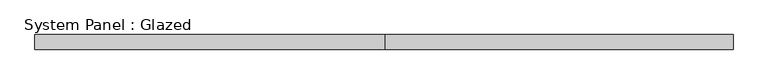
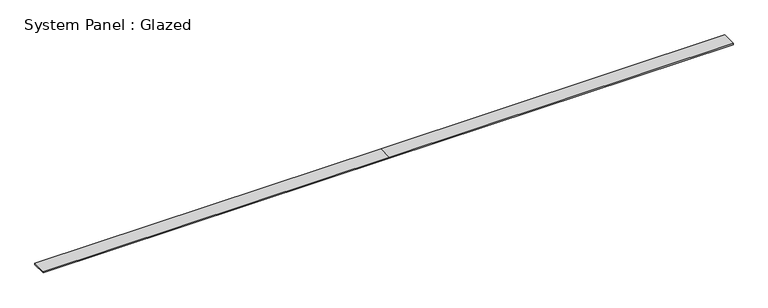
"""IFC4 building model written with IfcOpenShell, lengths in millimetres: plate geometry, System Panel : Glazed."""

from ifc_helpers import new_model, si_unit, frame, origin, place, context, project, spatial, polyline, outline, extrude, source, transform, mapped, element, save


def system_panel_glazed_8247c2e5(model_context):
    return source(origin(), model_context, "Body", "SweptSolid", [
        extrude(outline(polyline([(0.0, -597.9675506), (0.0, 2.0324494), (0.0, 597.9675506), (2.5, 597.9675506), (2.5, 2.0324494), (2.5, -597.9675506), (0.0, -597.9675506)])), frame((0.0, -12.5, 0.0), z_axis=(0.0, 1.0, 0.0), x_axis=(0.0, 0.0, 1.0)), (0.0, 0.0, 1.0), 25.0),
    ])


if __name__ == "__main__":
    model = new_model("IFC4")
    model_context = context("Model", 3, world=origin())
    ifc_project = project(units=[si_unit("LENGTHUNIT", "METRE", prefix="MILLI")], contexts=[model_context])
    site = spatial("IfcSite", under=ifc_project)
    building = spatial("IfcBuilding", under=site)
    placement = place(None, origin())
    system_panel_glazed_shape = system_panel_glazed_8247c2e5(model_context)
    element("IfcPlate", 1, ObjectType="System Panel : Glazed", at=placement, inside=building, context=model_context, shape_type="MappedRepresentation", body=[
        mapped(system_panel_glazed_shape, transform((0.0, 0.0, 0.0), x_axis=(1.0, 0.0, 0.0), y_axis=(0.0, 1.0, 0.0), z_axis=(0.0, 0.0, 1.0))),
    ])
    save(model, "model.ifc")
